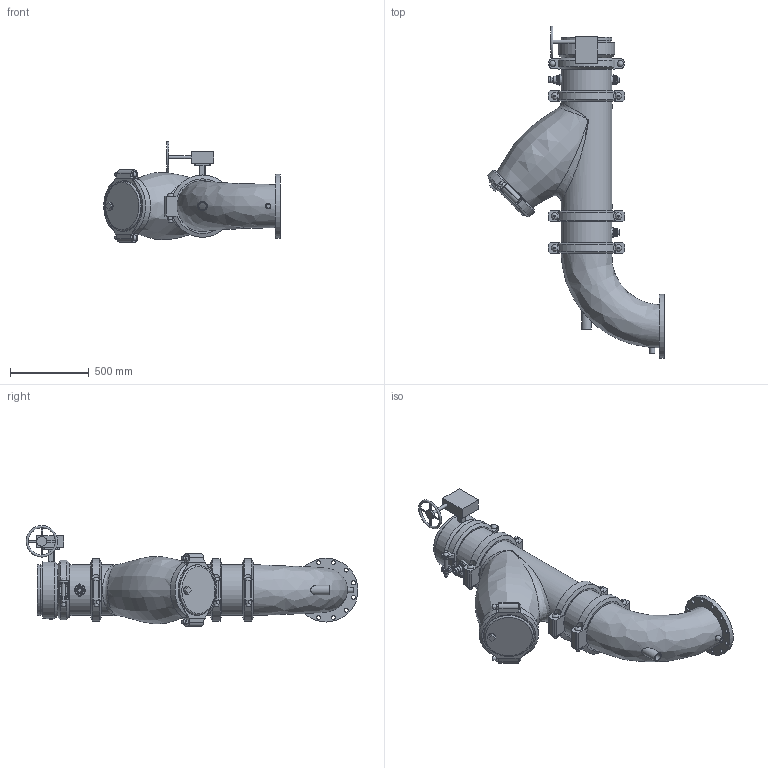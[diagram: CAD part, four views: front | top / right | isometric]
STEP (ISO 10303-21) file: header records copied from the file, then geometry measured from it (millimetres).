
FILE_DESCRIPTION(/* description */ ('VIC SVI PUMP DROP HORZ S/382 (OGSxFLG) (S/924-0.75)','CAx-IF Rec.Pracs.---Representation and Presentation of Product Manufacturing Information (PMI)---4.0---2014-10-13'),/* implementation_level */ '2;1');
FILE_NAME(/* name */ 'C:\Users\Vjadhav\AppData\Roaming\Autodesk\ApplicationPlugins\Victaulic.Temp\A562\Victaulic_IPS_Horizontal SVI_CL 150_Series 382 (OGSxFLG)_924 (0.75)_12.0x10.0 (300x250).stp',/* time_stamp */ '2022-02-28T20:01:08+06:00',/* author */ ('kkamble'),/* organization */ ('Victaulic'),/* preprocessor_version */ 'ST-DEVELOPER v17.2',/* originating_system */ 'Autodesk Inventor 2019',/* authorisation */ '');
FILE_SCHEMA (('AP242_MANAGED_MODEL_BASED_3D_ENGINEERING_MIM_LF { 1 0 10303 442 1 1 4 }'));
Length unit declared in the file: inch
Products named in the file (13): 382_924 (0.75)-12.0x10.0; PIPE-12.0; 107N-12.0; 732-12.0; 732-12.0_1; 07-12.0; 732-12.0_2; 077-12.0; PIPE-12.2; 761-12.0; 924-10.0x0.75; 923-10.0x0.75; R100F-12.0x10.0
Assembly tree (15 placements, depth 3):
  382_924 (0.75)-12.0x10.0
    PIPE-12.0
    107N-12.0
    732-12.0
      732-12.0_1
      07-12.0
      732-12.0_2
    077-12.0  x3
    PIPE-12.2
    761-12.0
    924-10.0x0.75
    923-10.0x0.75  x2
    R100F-12.0x10.0
Bounding box: 1123.95 x 2114.22 x 642.17 mm (x, y, z)
Volume: 47030042 mm3; surface area: 7387545.8 mm2
Topology: 14 solids, 23 shells, 747 faces, 1866 edges, 1259 vertices
Faces by surface type: plane 416, cylinder 255, bspline 36, cone 27, torus 9, sphere 4
Full cylindrical faces by diameter (mm): 10.922 x4, 20.066 x1, 21.336 x2, 22.225 x8, 22.86 x1, 25.4 x24, 26.67 x4, 27.432 x6, 31.75 x1, 34.29 x1, 37.694 x4, 38.608 x1, 45.974 x6, 48.26 x1, 50.8 x1, 55.626 x3, 60.96 x1, 63.079 x1, 70.104 x1, 76.2 x2, 254.508 x1, 292.1 x1, 303.225 x1, 304.216 x1, 304.546 x1, 304.8 x3, 311.15 x2, 314.96 x3, 318.287 x11, 323.85 x26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
Entity records: 24365 total; most frequent: CARTESIAN_POINT 9126, DIRECTION 3074, ORIENTED_EDGE 2852, EDGE_CURVE 1426, AXIS2_PLACEMENT_3D 1184, VERTEX_POINT 966, EDGE_LOOP 710, LINE 706
